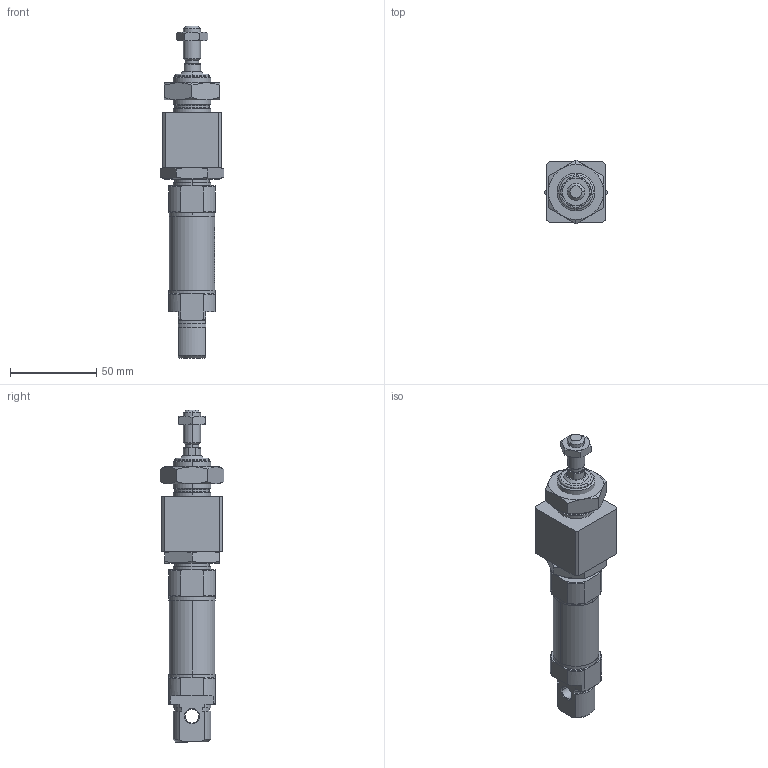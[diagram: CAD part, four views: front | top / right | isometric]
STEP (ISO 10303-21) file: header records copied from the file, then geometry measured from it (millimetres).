
FILE_DESCRIPTION (( 'STEP AP214' ), '1' );
FILE_NAME ('WSLCK-025-0010 (MDMY).STEP', '2017-08-10T10:12:00', ( 'Hidtek' ), ( '' ), 'SwSTEP 2.0', 'SolidWorks 2016', '' );
FILE_SCHEMA (( 'AUTOMOTIVE_DESIGN' ));
Length unit declared in the file: millimetre
Products named in the file (7): WSLCK-025-0010 (MDMY); Group3^WSLCK-025-0010 (MDMY); Group5^WSLCK-025-0010 (MDMY); Group4^WSLCK-025-0010 (MDMY); Group2^WSLCK-025-0010 (MDMY); Group6^WSLCK-025-0010 (MDMY); Group1^WSLCK-025-0010 (MDMY)
Assembly tree (6 placements, depth 2):
  WSLCK-025-0010 (MDMY)
    Group1^WSLCK-025-0010 (MDMY)
    Group2^WSLCK-025-0010 (MDMY)
    Group3^WSLCK-025-0010 (MDMY)
    Group4^WSLCK-025-0010 (MDMY)
    Group5^WSLCK-025-0010 (MDMY)
    Group6^WSLCK-025-0010 (MDMY)
Bounding box: 36.83 x 36.96 x 193 mm (x, y, z)
Volume: 108836.8 mm3; surface area: 40087.3 mm2
Topology: 9 solids, 9 shells, 451 faces, 1170 edges, 761 vertices
Faces by surface type: plane 249, cylinder 118, cone 74, bspline 8, torus 2
Entity records: 15796 total; most frequent: CARTESIAN_POINT 3818, ORIENTED_EDGE 2336, DIRECTION 2166, EDGE_CURVE 1168, AXIS2_PLACEMENT_3D 764, VERTEX_POINT 761, LINE 638, VECTOR 638
